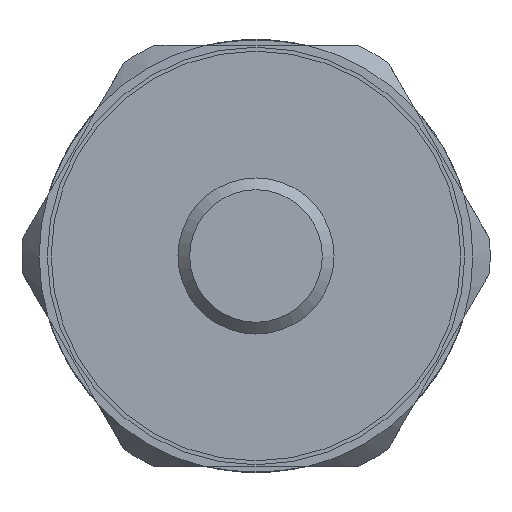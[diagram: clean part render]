
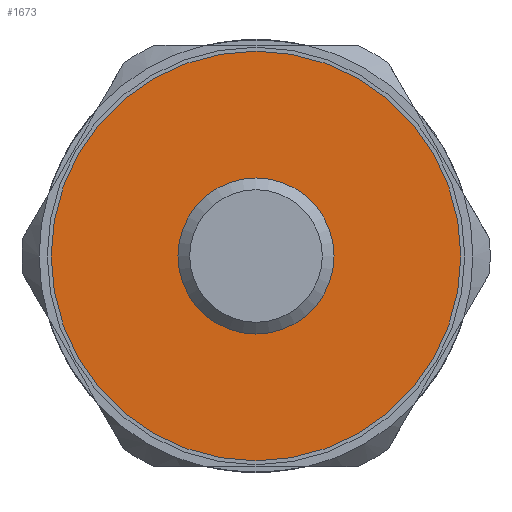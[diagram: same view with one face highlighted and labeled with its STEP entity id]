
A CAD part, left-side view. The second image highlights one B-rep face of the part: STEP entity #1673.
In plain terms, the highlighted planar face has unit normal (-1, 0, 0).
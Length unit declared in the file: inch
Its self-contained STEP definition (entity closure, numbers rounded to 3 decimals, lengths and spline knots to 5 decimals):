
#86=FACE_BOUND('',#249,.T.);
#110=PLANE('',#1823);
#154=FACE_OUTER_BOUND('',#248,.T.);
#248=EDGE_LOOP('',(#1183,#1184));
#249=EDGE_LOOP('',(#1185,#1186));
#479=CIRCLE('',#1768,0.14764);
#480=CIRCLE('',#1769,0.14764);
#509=CIRCLE('',#1824,0.41339);
#510=CIRCLE('',#1825,0.41339);
#610=VERTEX_POINT('',#2496);
#611=VERTEX_POINT('',#2497);
#664=VERTEX_POINT('',#2705);
#665=VERTEX_POINT('',#2706);
#782=EDGE_CURVE('',#610,#611,#479,.T.);
#783=EDGE_CURVE('',#611,#610,#480,.T.);
#863=EDGE_CURVE('',#664,#665,#509,.T.);
#864=EDGE_CURVE('',#665,#664,#510,.T.);
#1183=ORIENTED_EDGE('',*,*,#863,.T.);
#1184=ORIENTED_EDGE('',*,*,#864,.T.);
#1185=ORIENTED_EDGE('',*,*,#782,.T.);
#1186=ORIENTED_EDGE('',*,*,#783,.T.);
#1673=ADVANCED_FACE('',(#154,#86),#110,.T.);
#1768=AXIS2_PLACEMENT_3D('',#2498,#1993,#1994);
#1769=AXIS2_PLACEMENT_3D('',#2499,#1995,#1996);
#1823=AXIS2_PLACEMENT_3D('',#2704,#2130,#2131);
#1824=AXIS2_PLACEMENT_3D('',#2707,#2132,#2133);
#1825=AXIS2_PLACEMENT_3D('',#2708,#2134,#2135);
#1993=DIRECTION('center_axis',(1.,0.,0.));
#1994=DIRECTION('ref_axis',(0.,0.866,-0.5));
#1995=DIRECTION('center_axis',(1.,0.,0.));
#1996=DIRECTION('ref_axis',(0.,0.866,-0.5));
#2130=DIRECTION('center_axis',(-1.,0.,0.));
#2131=DIRECTION('ref_axis',(0.,0.866,-0.5));
#2132=DIRECTION('center_axis',(-1.,0.,0.));
#2133=DIRECTION('ref_axis',(0.,0.866,-0.5));
#2134=DIRECTION('center_axis',(-1.,0.,0.));
#2135=DIRECTION('ref_axis',(0.,0.866,-0.5));
#2496=CARTESIAN_POINT('',(-2.24602,0.22916,-0.27861));
#2497=CARTESIAN_POINT('',(-2.24602,-0.02656,-0.13098));
#2498=CARTESIAN_POINT('Origin',(-2.24602,0.1013,-0.2048));
#2499=CARTESIAN_POINT('Origin',(-2.24602,0.1013,-0.2048));
#2704=CARTESIAN_POINT('Origin',(-2.24602,0.1013,-0.2048));
#2705=CARTESIAN_POINT('',(-2.24602,0.4593,-0.41149));
#2706=CARTESIAN_POINT('',(-2.24602,-0.2567,0.0019));
#2707=CARTESIAN_POINT('Origin',(-2.24602,0.1013,-0.2048));
#2708=CARTESIAN_POINT('Origin',(-2.24602,0.1013,-0.2048));
